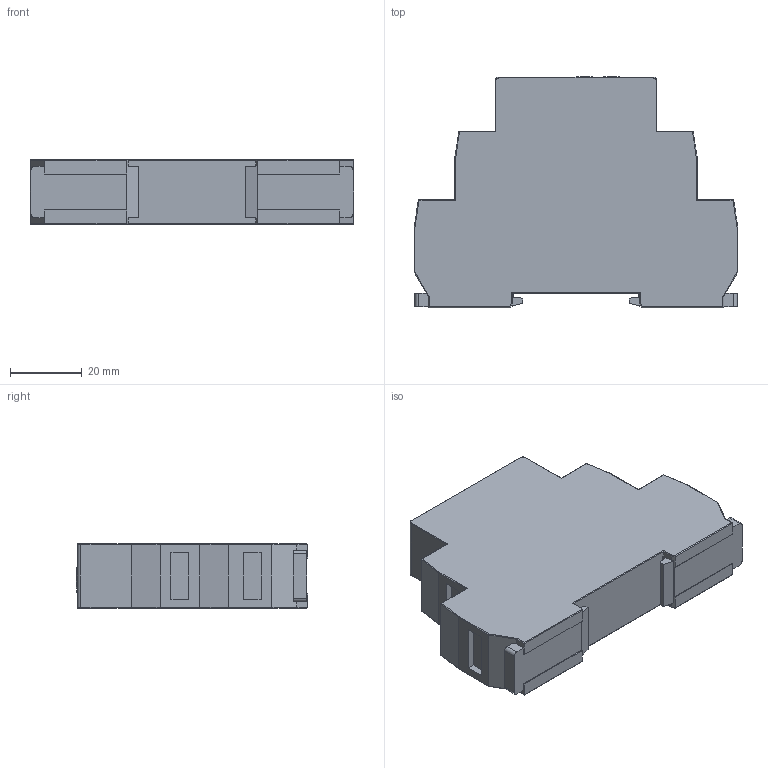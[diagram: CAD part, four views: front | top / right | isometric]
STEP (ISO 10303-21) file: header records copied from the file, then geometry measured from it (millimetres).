
FILE_DESCRIPTION (( 'STEP AP214' ), '1' );
FILE_NAME ('GEYA_GRT8-A2_3D.STEP', '2023-11-02T07:54:57', ( '' ), ( '' ), 'SwSTEP 2.0', 'SolidWorks 2018', '' );
FILE_SCHEMA (( 'AUTOMOTIVE_DESIGN' ));
Length unit declared in the file: millimetre
Products named in the file (1): GEYA_GRT8-A2_3D
Bounding box: 90 x 64.27 x 17.8 mm (x, y, z)
Volume: 78859.3 mm3; surface area: 15495 mm2
Topology: 1 solids, 1 shells, 427 faces, 1080 edges, 674 vertices
Faces by surface type: plane 283, cylinder 106, cone 26, sphere 8, torus 4
Entity records: 14272 total; most frequent: CARTESIAN_POINT 2462, ORIENTED_EDGE 2148, DIRECTION 2080, EDGE_CURVE 1074, LINE 732, VECTOR 732, AXIS2_PLACEMENT_3D 674, VERTEX_POINT 672
